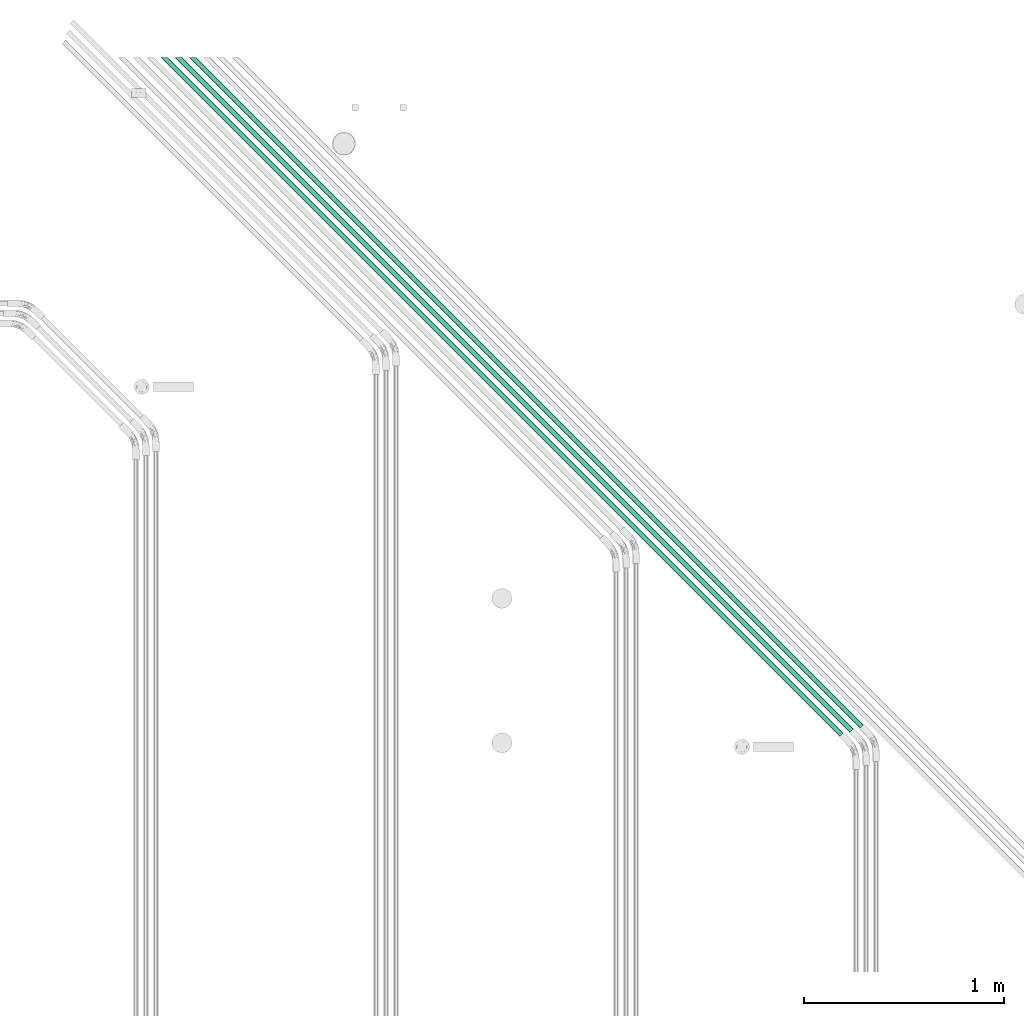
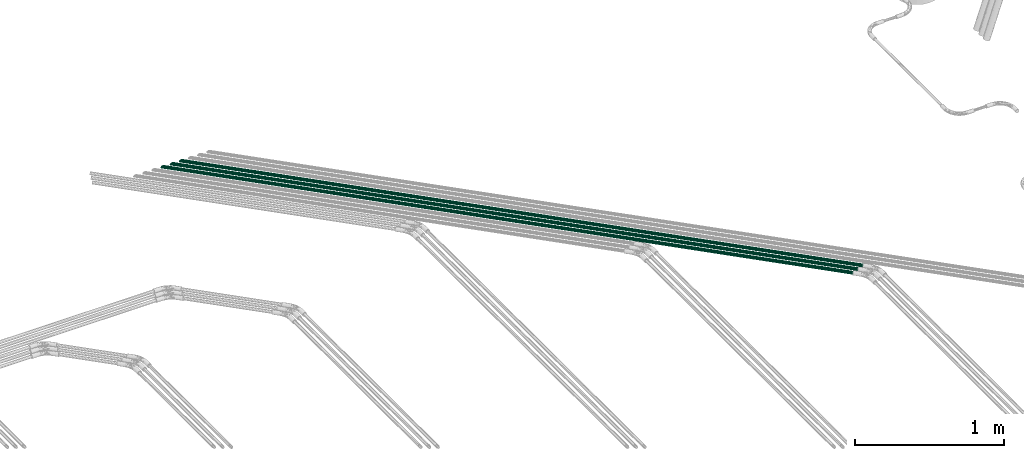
# One storey, part 45 of 51: 3 flow segments.
"""IFC2X3 building model written with IfcOpenShell, lengths in millimetres."""

from ifc_helpers import new_model, entity, si_unit, converted_unit, derived_unit, direction, frame, place, context, subcontext, project, spatial, faceted_brep, type_object, element, save


model = new_model("IFC2X3")

# Units and contexts
model_context = context("Model", 3, precision=0.01, world=frame((0.0, 4.29681676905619e-09, 0.0)), true_north=direction((4.01073788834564e-13, 1.0)))
plan_context = context("Plan", 3, precision=0.01, world=frame((0.0, 4.29681676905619e-09, 0.0)), true_north=direction((4.01073788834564e-13, 1.0)))
body_context = subcontext(model_context, "Body", "Model", "MODEL_VIEW")
ifc_project = project(units=[converted_unit("PLANEANGLEUNIT", "DEGREE", entity("IfcPositiveLengthMeasure", 0.0174532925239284), si_unit("PLANEANGLEUNIT", "RADIAN"), dimensions=[0, 0, 0, 0, 0, 0, 0]), si_unit("AREAUNIT", "SQUARE_METRE"), si_unit("LENGTHUNIT", "METRE", prefix="MILLI"), si_unit("MASSUNIT", "GRAM", prefix="KILO"), si_unit("POWERUNIT", "WATT"), si_unit("PRESSUREUNIT", "PASCAL"), si_unit("FORCEUNIT", "NEWTON", prefix="KILO"), si_unit("ELECTRICVOLTAGEUNIT", "VOLT"), si_unit("ELECTRICCURRENTUNIT", "AMPERE"), si_unit("THERMODYNAMICTEMPERATUREUNIT", "DEGREE_CELSIUS"), si_unit("TIMEUNIT", "SECOND"), si_unit("VOLUMEUNIT", "CUBIC_METRE"), derived_unit("LINEARVELOCITYUNIT", [(si_unit("LENGTHUNIT", "METRE"), 1), (si_unit("TIMEUNIT", "SECOND"), -1)]), derived_unit("VOLUMETRICFLOWRATEUNIT", [(si_unit("VOLUMEUNIT", "CUBIC_METRE"), 1), (si_unit("TIMEUNIT", "SECOND"), -1)]), derived_unit("THERMALTRANSMITTANCEUNIT", [(si_unit("POWERUNIT", "WATT"), 1), (si_unit("THERMODYNAMICTEMPERATUREUNIT", "KELVIN"), -1), (si_unit("AREAUNIT", "SQUARE_METRE"), -1)]), derived_unit("SOUNDPRESSUREUNIT", [(si_unit("PRESSUREUNIT", "PASCAL"), 1)])], contexts=[model_context, plan_context])

# Site, building, storey
site_placement = place(None, frame((0.0, -4.29681676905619e-09, 0.0), z_axis=(0.0, 0.0, 1.0), x_axis=(1.0, 0.0, 0.0)))
site = spatial("IfcSite", under=ifc_project, at=site_placement, Name="ENGM", CompositionType="ELEMENT")
building_placement = place(site_placement, frame((0.0, 4.29681676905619e-09, 0.0), z_axis=(0.0, 0.0, 1.0), x_axis=(1.0, 0.0, 0.0)))
building = spatial("IfcBuilding", under=site, at=building_placement, Name="TI", CompositionType="ELEMENT")
storey_placement = place(building_placement, frame((0.0, 0.0, 210900.0), z_axis=(0.0, 0.0, 1.0), x_axis=(1.0, 0.0, 0.0)))
storey = spatial("IfcBuildingStorey", under=building, at=storey_placement, Name="Nivå F", CompositionType="ELEMENT", Elevation=210900.0)

# Flow segments
cable_carrier_segment_type = type_object("IfcCableCarrierSegmentType", Name="Trekkerør, korrugert", PredefinedType="CONDUITSEGMENT")
flow_segment_1_placement = place(storey_placement, frame((609952.53125, 696129.57135, -56.7999999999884), z_axis=(0.0, 0.0, 1.0), x_axis=(-0.707106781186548, 0.707106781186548, 0.0)))
element("IfcFlowSegment", 1, at=flow_segment_1_placement, inside=storey, type_object=cable_carrier_segment_type, Name="Trekkerør, korrugert", context=body_context, shape_type="Brep", body=[
    faceted_brep([(4742.35767556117, 10.5, 0.0), (4742.1981569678, 10.3404814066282, -1.82330586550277), (0.0, 10.3404814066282, -1.82330586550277), (0.0, 10.5, 0.0), (4741.72444807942, 9.86677251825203, -3.59121150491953), (0.0, 9.86677251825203, -3.59121150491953), (4740.95094230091, 9.0932667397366, -5.25), (0.0, 9.0932667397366, -5.25), (4739.90114221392, 8.04346665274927, -6.74926990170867), (0.0, 8.04346665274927, -6.74926990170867), (4738.60694546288, 6.74926990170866, -8.04346665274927), (0.0, 6.74926990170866, -8.04346665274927), (4737.10767556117, 5.25, -9.09326673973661), (0.0, 5.25, -9.09326673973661), (4735.44888706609, 3.59121150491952, -9.86677251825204), (0.0, 3.59121150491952, -9.86677251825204), (4733.68098142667, 1.82330586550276, -10.3404814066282), (0.0, 1.82330586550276, -10.3404814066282), (4731.85767556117, -1.92881870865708e-15, -10.5), (0.0, -1.92881870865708e-15, -10.5), (4730.03436969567, -1.82330586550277, -10.3404814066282), (0.0, -1.82330586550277, -10.3404814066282), (4728.26646405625, -3.59121150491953, -9.86677251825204), (0.0, -3.59121150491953, -9.86677251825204), (4726.60767556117, -5.25, -9.0932667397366), (0.0, -5.25, -9.0932667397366), (4725.10840565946, -6.74926990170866, -8.04346665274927), (0.0, -6.74926990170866, -8.04346665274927), (4723.81420890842, -8.04346665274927, -6.74926990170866), (0.0, -8.04346665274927, -6.74926990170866), (4722.76440882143, -9.09326673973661, -5.25), (0.0, -9.09326673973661, -5.25), (4721.99090304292, -9.86677251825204, -3.59121150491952), (0.0, -9.86677251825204, -3.59121150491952), (4721.51719415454, -10.3404814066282, -1.82330586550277), (0.0, -10.3404814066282, -1.82330586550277), (4721.35767556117, -10.5, 1.28587913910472e-15), (0.0, -10.5, 1.28587913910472e-15), (4721.51719415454, -10.3404814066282, 1.82330586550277), (0.0, -10.3404814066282, 1.82330586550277), (4721.99090304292, -9.86677251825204, 3.59121150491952), (0.0, -9.86677251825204, 3.59121150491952), (4722.76440882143, -9.09326673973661, 5.25), (0.0, -9.09326673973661, 5.25), (4723.81420890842, -8.04346665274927, 6.74926990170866), (0.0, -8.04346665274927, 6.74926990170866), (4725.10840565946, -6.74926990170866, 8.04346665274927), (0.0, -6.74926990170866, 8.04346665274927), (4726.60767556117, -5.25, 9.09326673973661), (0.0, -5.25, 9.09326673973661), (4728.26646405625, -3.59121150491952, 9.86677251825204), (0.0, -3.59121150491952, 9.86677251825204), (4730.03436969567, -1.82330586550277, 10.3404814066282), (0.0, -1.82330586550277, 10.3404814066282), (4731.85767556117, 6.4293956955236e-16, 10.5), (0.0, 6.4293956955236e-16, 10.5), (4733.68098142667, 1.82330586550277, 10.3404814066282), (0.0, 1.82330586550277, 10.3404814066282), (4735.44888706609, 3.59121150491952, 9.86677251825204), (0.0, 3.59121150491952, 9.86677251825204), (4737.10767556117, 5.25, 9.09326673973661), (0.0, 5.25, 9.09326673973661), (4738.60694546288, 6.74926990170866, 8.04346665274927), (0.0, 6.74926990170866, 8.04346665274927), (4739.90114221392, 8.04346665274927, 6.74926990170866), (0.0, 8.04346665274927, 6.74926990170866), (4740.95094230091, 9.09326673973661, 5.25), (0.0, 9.09326673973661, 5.25), (4741.72444807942, 9.86677251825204, 3.59121150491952), (0.0, 9.86677251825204, 3.59121150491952), (4742.1981569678, 10.3404814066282, 1.82330586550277), (0.0, 10.3404814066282, 1.82330586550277), (4744.16777247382, 12.3100969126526, -2.17060222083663), (4744.35767556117, 12.5, 0.0), (0.0, 12.5, 0.0), (0.0, 12.3100969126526, -2.17060222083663), (4744.16777247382, 12.3100969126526, 2.17060222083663), (0.0, 12.3100969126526, 2.17060222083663), (4743.60383332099, 11.7461577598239, 4.27525179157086), (0.0, 11.7461577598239, 4.27525179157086), (4742.68299310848, 10.8253175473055, 6.25), (0.0, 10.8253175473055, 6.25), (4741.43323110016, 9.57555553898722, 8.03484512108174), (0.0, 9.57555553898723, 8.03484512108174), (4739.89252068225, 8.03484512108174, 9.57555553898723), (0.0, 8.03484512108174, 9.57555553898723), (4738.10767556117, 6.25, 10.8253175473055), (0.0, 6.25, 10.8253175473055), (4736.13292735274, 4.27525179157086, 11.7461577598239), (0.0, 4.27525179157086, 11.7461577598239), (4734.02827778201, 2.17060222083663, 12.3100969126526), (0.0, 2.17060222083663, 12.3100969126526), (4731.85767556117, 7.65404249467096e-16, 12.5), (0.0, 7.65404249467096e-16, 12.5), (4729.68707334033, -2.17060222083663, 12.3100969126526), (0.0, -2.17060222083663, 12.3100969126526), (4727.5824237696, -4.27525179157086, 11.7461577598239), (0.0, -4.27525179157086, 11.7461577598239), (4725.60767556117, -6.25, 10.8253175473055), (0.0, -6.25, 10.8253175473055), (4723.82283044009, -8.03484512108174, 9.57555553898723), (0.0, -8.03484512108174, 9.57555553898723), (4722.28212002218, -9.57555553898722, 8.03484512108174), (0.0, -9.57555553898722, 8.03484512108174), (4721.03235801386, -10.8253175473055, 6.25), (0.0, -10.8253175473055, 6.25), (4720.11151780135, -11.7461577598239, 4.27525179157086), (0.0, -11.7461577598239, 4.27525179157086), (4719.54757864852, -12.3100969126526, 2.17060222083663), (0.0, -12.3100969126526, 2.17060222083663), (4719.35767556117, -12.5, 1.53080849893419e-15), (0.0, -12.5, 1.53080849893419e-15), (4719.54757864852, -12.3100969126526, -2.17060222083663), (0.0, -12.3100969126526, -2.17060222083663), (4720.11151780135, -11.7461577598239, -4.27525179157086), (0.0, -11.7461577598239, -4.27525179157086), (4721.03235801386, -10.8253175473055, -6.25), (0.0, -10.8253175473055, -6.25), (4722.28212002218, -9.57555553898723, -8.03484512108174), (0.0, -9.57555553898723, -8.03484512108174), (4723.82283044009, -8.03484512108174, -9.57555553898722), (0.0, -8.03484512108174, -9.57555553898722), (4725.60767556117, -6.25000000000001, -10.8253175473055), (0.0, -6.25000000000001, -10.8253175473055), (4727.5824237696, -4.27525179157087, -11.7461577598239), (0.0, -4.27525179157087, -11.7461577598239), (4729.68707334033, -2.17060222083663, -12.3100969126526), (0.0, -2.17060222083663, -12.3100969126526), (4731.85767556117, -2.29621274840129e-15, -12.5), (0.0, -2.29621274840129e-15, -12.5), (4734.02827778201, 2.17060222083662, -12.3100969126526), (0.0, 2.17060222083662, -12.3100969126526), (4736.13292735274, 4.27525179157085, -11.7461577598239), (0.0, 4.27525179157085, -11.7461577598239), (4738.10767556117, 6.25, -10.8253175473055), (0.0, 6.25, -10.8253175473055), (4739.89252068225, 8.03484512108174, -9.57555553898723), (0.0, 8.03484512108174, -9.57555553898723), (4741.43323110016, 9.57555553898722, -8.03484512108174), (0.0, 9.57555553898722, -8.03484512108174), (4742.68299310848, 10.8253175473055, -6.25000000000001), (0.0, 10.8253175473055, -6.25000000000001), (4743.60383332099, 11.7461577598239, -4.27525179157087), (0.0, 11.7461577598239, -4.27525179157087)], [[[0, 1, 2, 3]], [[1, 4, 5, 2]], [[4, 6, 7, 5]], [[6, 8, 9, 7]], [[8, 10, 11, 9]], [[10, 12, 13, 11]], [[12, 14, 15, 13]], [[14, 16, 17, 15]], [[16, 18, 19, 17]], [[18, 20, 21, 19]], [[20, 22, 23, 21]], [[22, 24, 25, 23]], [[24, 26, 27, 25]], [[26, 28, 29, 27]], [[28, 30, 31, 29]], [[30, 32, 33, 31]], [[32, 34, 35, 33]], [[34, 36, 37, 35]], [[36, 38, 39, 37]], [[38, 40, 41, 39]], [[40, 42, 43, 41]], [[42, 44, 45, 43]], [[44, 46, 47, 45]], [[46, 48, 49, 47]], [[48, 50, 51, 49]], [[50, 52, 53, 51]], [[52, 54, 55, 53]], [[54, 56, 57, 55]], [[56, 58, 59, 57]], [[58, 60, 61, 59]], [[60, 62, 63, 61]], [[62, 64, 65, 63]], [[64, 66, 67, 65]], [[66, 68, 69, 67]], [[68, 70, 71, 69]], [[70, 0, 3, 71]], [[72, 73, 74, 75]], [[73, 76, 77, 74]], [[76, 78, 79, 77]], [[78, 80, 81, 79]], [[80, 82, 83, 81]], [[82, 84, 85, 83]], [[84, 86, 87, 85]], [[86, 88, 89, 87]], [[88, 90, 91, 89]], [[90, 92, 93, 91]], [[92, 94, 95, 93]], [[94, 96, 97, 95]], [[96, 98, 99, 97]], [[98, 100, 101, 99]], [[100, 102, 103, 101]], [[102, 104, 105, 103]], [[104, 106, 107, 105]], [[106, 108, 109, 107]], [[108, 110, 111, 109]], [[110, 112, 113, 111]], [[112, 114, 115, 113]], [[114, 116, 117, 115]], [[116, 118, 119, 117]], [[118, 120, 121, 119]], [[120, 122, 123, 121]], [[122, 124, 125, 123]], [[124, 126, 127, 125]], [[126, 128, 129, 127]], [[128, 130, 131, 129]], [[130, 132, 133, 131]], [[132, 134, 135, 133]], [[134, 136, 137, 135]], [[136, 138, 139, 137]], [[138, 140, 141, 139]], [[140, 142, 143, 141]], [[142, 72, 75, 143]], [[75, 74, 77, 79, 81, 83, 85, 87, 89, 91, 93, 95, 97, 99, 101, 103, 105, 107, 109, 111, 113, 115, 117, 119, 121, 123, 125, 127, 129, 131, 133, 135, 137, 139, 141, 143], [3, 2, 5, 7, 9, 11, 13, 15, 17, 19, 21, 23, 25, 27, 29, 31, 33, 35, 37, 39, 41, 43, 45, 47, 49, 51, 53, 55, 57, 59, 61, 63, 65, 67, 69, 71]], [[142, 140, 138, 136, 134, 132, 130, 128, 126, 124, 122, 120, 118, 116, 114, 112, 110, 108, 106, 104, 102, 100, 98, 96, 94, 92, 90, 88, 86, 84, 82, 80, 78, 76, 73, 72], [70, 68, 66, 64, 62, 60, 58, 56, 54, 52, 50, 48, 46, 44, 42, 40, 38, 36, 34, 32, 30, 28, 26, 24, 22, 20, 18, 16, 14, 12, 10, 8, 6, 4, 1, 0]]], orient=[[False], [False], [False], [False], [False], [False], [False], [False], [False], [False], [False], [False], [False], [False], [False], [False], [False], [False], [False], [False], [False], [False], [False], [False], [False], [False], [False], [False], [False], [False], [False], [False], [False], [False], [False], [False], [False], [False], [False], [False], [False], [False], [False], [False], [False], [False], [False], [False], [False], [False], [False], [False], [False], [False], [False], [False], [False], [False], [False], [False], [False], [False], [False], [False], [False], [False], [False], [False], [False], [False], [False], [False], [False, False], [False, False]]),
])
flow_segment_2_placement = place(storey_placement, frame((609902.53125, 696108.86067, -56.7999999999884), z_axis=(0.0, 0.0, 1.0), x_axis=(-0.707106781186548, 0.707106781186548, 0.0)))
element("IfcFlowSegment", 2, at=flow_segment_2_placement, inside=storey, type_object=cable_carrier_segment_type, Name="Trekkerør, korrugert", context=body_context, shape_type="Brep", body=[
    faceted_brep([(4771.64700010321, 10.5, 0.0), (4771.48748150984, 10.3404814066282, -1.82330586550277), (0.0, 10.3404814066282, -1.82330586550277), (0.0, 10.5, 0.0), (4771.01377262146, 9.86677251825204, -3.59121150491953), (0.0, 9.86677251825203, -3.59121150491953), (4770.24026684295, 9.0932667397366, -5.25), (0.0, 9.0932667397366, -5.25), (4769.19046675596, 8.04346665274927, -6.74926990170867), (0.0, 8.04346665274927, -6.74926990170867), (4767.89627000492, 6.74926990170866, -8.04346665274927), (0.0, 6.74926990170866, -8.04346665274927), (4766.39700010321, 5.25, -9.09326673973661), (0.0, 5.25, -9.09326673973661), (4764.73821160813, 3.59121150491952, -9.86677251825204), (0.0, 3.59121150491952, -9.86677251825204), (4762.97030596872, 1.82330586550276, -10.3404814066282), (0.0, 1.82330586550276, -10.3404814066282), (4761.14700010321, -1.92881870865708e-15, -10.5), (0.0, -1.92881870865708e-15, -10.5), (4759.32369423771, -1.82330586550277, -10.3404814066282), (0.0, -1.82330586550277, -10.3404814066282), (4757.55578859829, -3.59121150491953, -9.86677251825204), (0.0, -3.59121150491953, -9.86677251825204), (4755.89700010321, -5.25, -9.09326673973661), (0.0, -5.25, -9.0932667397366), (4754.3977302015, -6.74926990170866, -8.04346665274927), (0.0, -6.74926990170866, -8.04346665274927), (4753.10353345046, -8.04346665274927, -6.74926990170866), (0.0, -8.04346665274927, -6.74926990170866), (4752.05373336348, -9.09326673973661, -5.25), (0.0, -9.09326673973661, -5.25), (4751.28022758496, -9.86677251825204, -3.59121150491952), (0.0, -9.86677251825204, -3.59121150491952), (4750.80651869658, -10.3404814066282, -1.82330586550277), (0.0, -10.3404814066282, -1.82330586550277), (4750.64700010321, -10.5, 1.28587913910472e-15), (0.0, -10.5, 1.28587913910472e-15), (4750.80651869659, -10.3404814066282, 1.82330586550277), (0.0, -10.3404814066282, 1.82330586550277), (4751.28022758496, -9.86677251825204, 3.59121150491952), (0.0, -9.86677251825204, 3.59121150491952), (4752.05373336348, -9.09326673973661, 5.25), (0.0, -9.09326673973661, 5.25), (4753.10353345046, -8.04346665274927, 6.74926990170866), (0.0, -8.04346665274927, 6.74926990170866), (4754.3977302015, -6.74926990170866, 8.04346665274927), (0.0, -6.74926990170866, 8.04346665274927), (4755.89700010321, -5.25, 9.09326673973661), (0.0, -5.25, 9.09326673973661), (4757.55578859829, -3.59121150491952, 9.86677251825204), (0.0, -3.59121150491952, 9.86677251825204), (4759.32369423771, -1.82330586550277, 10.3404814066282), (0.0, -1.82330586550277, 10.3404814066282), (4761.14700010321, 6.42939569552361e-16, 10.5), (0.0, 6.4293956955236e-16, 10.5), (4762.97030596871, 1.82330586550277, 10.3404814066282), (0.0, 1.82330586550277, 10.3404814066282), (4764.73821160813, 3.59121150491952, 9.86677251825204), (0.0, 3.59121150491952, 9.86677251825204), (4766.39700010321, 5.25, 9.09326673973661), (0.0, 5.25, 9.09326673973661), (4767.89627000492, 6.74926990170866, 8.04346665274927), (0.0, 6.74926990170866, 8.04346665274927), (4769.19046675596, 8.04346665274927, 6.74926990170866), (0.0, 8.04346665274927, 6.74926990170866), (4770.24026684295, 9.09326673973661, 5.25), (0.0, 9.09326673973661, 5.25), (4771.01377262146, 9.86677251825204, 3.59121150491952), (0.0, 9.86677251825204, 3.59121150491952), (4771.48748150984, 10.3404814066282, 1.82330586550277), (0.0, 10.3404814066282, 1.82330586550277), (4773.45709701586, 12.3100969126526, -2.17060222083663), (4773.64700010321, 12.5, 0.0), (0.0, 12.5, 0.0), (0.0, 12.3100969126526, -2.17060222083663), (4773.45709701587, 12.3100969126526, 2.17060222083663), (0.0, 12.3100969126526, 2.17060222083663), (4772.89315786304, 11.7461577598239, 4.27525179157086), (0.0, 11.7461577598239, 4.27525179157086), (4771.97231765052, 10.8253175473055, 6.25), (0.0, 10.8253175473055, 6.25), (4770.7225556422, 9.57555553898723, 8.03484512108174), (0.0, 9.57555553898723, 8.03484512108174), (4769.18184522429, 8.03484512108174, 9.57555553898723), (0.0, 8.03484512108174, 9.57555553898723), (4767.39700010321, 6.25, 10.8253175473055), (0.0, 6.25, 10.8253175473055), (4765.42225189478, 4.27525179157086, 11.7461577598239), (0.0, 4.27525179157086, 11.7461577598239), (4763.31760232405, 2.17060222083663, 12.3100969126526), (0.0, 2.17060222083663, 12.3100969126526), (4761.14700010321, 7.65404249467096e-16, 12.5), (0.0, 7.65404249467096e-16, 12.5), (4758.97639788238, -2.17060222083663, 12.3100969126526), (0.0, -2.17060222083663, 12.3100969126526), (4756.87174831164, -4.27525179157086, 11.7461577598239), (0.0, -4.27525179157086, 11.7461577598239), (4754.89700010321, -6.25, 10.8253175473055), (0.0, -6.25, 10.8253175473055), (4753.11215498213, -8.03484512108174, 9.57555553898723), (0.0, -8.03484512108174, 9.57555553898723), (4751.57144456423, -9.57555553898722, 8.03484512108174), (0.0, -9.57555553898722, 8.03484512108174), (4750.32168255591, -10.8253175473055, 6.25), (0.0, -10.8253175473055, 6.25), (4749.40084234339, -11.7461577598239, 4.27525179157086), (0.0, -11.7461577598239, 4.27525179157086), (4748.83690319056, -12.3100969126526, 2.17060222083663), (0.0, -12.3100969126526, 2.17060222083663), (4748.64700010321, -12.5, 1.53080849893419e-15), (0.0, -12.5, 1.53080849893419e-15), (4748.83690319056, -12.3100969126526, -2.17060222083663), (0.0, -12.3100969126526, -2.17060222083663), (4749.40084234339, -11.7461577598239, -4.27525179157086), (0.0, -11.7461577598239, -4.27525179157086), (4750.32168255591, -10.8253175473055, -6.25), (0.0, -10.8253175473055, -6.25), (4751.57144456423, -9.57555553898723, -8.03484512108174), (0.0, -9.57555553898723, -8.03484512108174), (4753.11215498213, -8.03484512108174, -9.57555553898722), (0.0, -8.03484512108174, -9.57555553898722), (4754.89700010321, -6.25000000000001, -10.8253175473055), (0.0, -6.25000000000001, -10.8253175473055), (4756.87174831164, -4.27525179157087, -11.7461577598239), (0.0, -4.27525179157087, -11.7461577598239), (4758.97639788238, -2.17060222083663, -12.3100969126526), (0.0, -2.17060222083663, -12.3100969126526), (4761.14700010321, -2.29621274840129e-15, -12.5), (0.0, -2.29621274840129e-15, -12.5), (4763.31760232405, 2.17060222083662, -12.3100969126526), (0.0, 2.17060222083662, -12.3100969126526), (4765.42225189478, 4.27525179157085, -11.7461577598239), (0.0, 4.27525179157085, -11.7461577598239), (4767.39700010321, 6.25, -10.8253175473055), (0.0, 6.25, -10.8253175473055), (4769.18184522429, 8.03484512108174, -9.57555553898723), (0.0, 8.03484512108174, -9.57555553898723), (4770.7225556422, 9.57555553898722, -8.03484512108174), (0.0, 9.57555553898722, -8.03484512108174), (4771.97231765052, 10.8253175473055, -6.25000000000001), (0.0, 10.8253175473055, -6.25000000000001), (4772.89315786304, 11.7461577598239, -4.27525179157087), (0.0, 11.7461577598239, -4.27525179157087)], [[[0, 1, 2, 3]], [[1, 4, 5, 2]], [[4, 6, 7, 5]], [[6, 8, 9, 7]], [[8, 10, 11, 9]], [[10, 12, 13, 11]], [[12, 14, 15, 13]], [[14, 16, 17, 15]], [[16, 18, 19, 17]], [[18, 20, 21, 19]], [[20, 22, 23, 21]], [[22, 24, 25, 23]], [[24, 26, 27, 25]], [[26, 28, 29, 27]], [[28, 30, 31, 29]], [[30, 32, 33, 31]], [[32, 34, 35, 33]], [[34, 36, 37, 35]], [[36, 38, 39, 37]], [[38, 40, 41, 39]], [[40, 42, 43, 41]], [[42, 44, 45, 43]], [[44, 46, 47, 45]], [[46, 48, 49, 47]], [[48, 50, 51, 49]], [[50, 52, 53, 51]], [[52, 54, 55, 53]], [[54, 56, 57, 55]], [[56, 58, 59, 57]], [[58, 60, 61, 59]], [[60, 62, 63, 61]], [[62, 64, 65, 63]], [[64, 66, 67, 65]], [[66, 68, 69, 67]], [[68, 70, 71, 69]], [[70, 0, 3, 71]], [[72, 73, 74, 75]], [[73, 76, 77, 74]], [[76, 78, 79, 77]], [[78, 80, 81, 79]], [[80, 82, 83, 81]], [[82, 84, 85, 83]], [[84, 86, 87, 85]], [[86, 88, 89, 87]], [[88, 90, 91, 89]], [[90, 92, 93, 91]], [[92, 94, 95, 93]], [[94, 96, 97, 95]], [[96, 98, 99, 97]], [[98, 100, 101, 99]], [[100, 102, 103, 101]], [[102, 104, 105, 103]], [[104, 106, 107, 105]], [[106, 108, 109, 107]], [[108, 110, 111, 109]], [[110, 112, 113, 111]], [[112, 114, 115, 113]], [[114, 116, 117, 115]], [[116, 118, 119, 117]], [[118, 120, 121, 119]], [[120, 122, 123, 121]], [[122, 124, 125, 123]], [[124, 126, 127, 125]], [[126, 128, 129, 127]], [[128, 130, 131, 129]], [[130, 132, 133, 131]], [[132, 134, 135, 133]], [[134, 136, 137, 135]], [[136, 138, 139, 137]], [[138, 140, 141, 139]], [[140, 142, 143, 141]], [[142, 72, 75, 143]], [[75, 74, 77, 79, 81, 83, 85, 87, 89, 91, 93, 95, 97, 99, 101, 103, 105, 107, 109, 111, 113, 115, 117, 119, 121, 123, 125, 127, 129, 131, 133, 135, 137, 139, 141, 143], [3, 2, 5, 7, 9, 11, 13, 15, 17, 19, 21, 23, 25, 27, 29, 31, 33, 35, 37, 39, 41, 43, 45, 47, 49, 51, 53, 55, 57, 59, 61, 63, 65, 67, 69, 71]], [[142, 140, 138, 136, 134, 132, 130, 128, 126, 124, 122, 120, 118, 116, 114, 112, 110, 108, 106, 104, 102, 100, 98, 96, 94, 92, 90, 88, 86, 84, 82, 80, 78, 76, 73, 72], [70, 68, 66, 64, 62, 60, 58, 56, 54, 52, 50, 48, 46, 44, 42, 40, 38, 36, 34, 32, 30, 28, 26, 24, 22, 20, 18, 16, 14, 12, 10, 8, 6, 4, 1, 0]]], orient=[[False], [False], [False], [False], [False], [False], [False], [False], [False], [False], [False], [False], [False], [False], [False], [False], [False], [False], [False], [False], [False], [False], [False], [False], [False], [False], [False], [False], [False], [False], [False], [False], [False], [False], [False], [False], [False], [False], [False], [False], [False], [False], [False], [False], [False], [False], [False], [False], [False], [False], [False], [False], [False], [False], [False], [False], [False], [False], [False], [False], [False], [False], [False], [False], [False], [False], [False], [False], [False], [False], [False], [False], [False, False], [False, False]]),
])
flow_segment_3_placement = place(storey_placement, frame((609852.53125, 696088.14999, -56.7999999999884), z_axis=(0.0, 0.0, 1.0), x_axis=(-0.707106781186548, 0.707106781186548, 0.0)))
element("IfcFlowSegment", 3, at=flow_segment_3_placement, inside=storey, type_object=cable_carrier_segment_type, Name="Trekkerør, korrugert", context=body_context, shape_type="Brep", body=[
    faceted_brep([(4800.93632464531, 10.5, 0.0), (4800.77680605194, 10.3404814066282, -1.82330586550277), (0.0, 10.3404814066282, -1.82330586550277), (0.0, 10.5, 0.0), (4800.30309716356, 9.86677251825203, -3.59121150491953), (0.0, 9.86677251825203, -3.59121150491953), (4799.52959138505, 9.0932667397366, -5.25), (0.0, 9.0932667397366, -5.25), (4798.47979129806, 8.04346665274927, -6.74926990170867), (0.0, 8.04346665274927, -6.74926990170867), (4797.18559454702, 6.74926990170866, -8.04346665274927), (0.0, 6.74926990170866, -8.04346665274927), (4795.68632464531, 5.25, -9.09326673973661), (0.0, 5.25, -9.09326673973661), (4794.02753615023, 3.59121150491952, -9.86677251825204), (0.0, 3.59121150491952, -9.86677251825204), (4792.25963051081, 1.82330586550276, -10.3404814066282), (0.0, 1.82330586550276, -10.3404814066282), (4790.43632464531, -1.92881870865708e-15, -10.5), (0.0, -1.92881870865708e-15, -10.5), (4788.61301877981, -1.82330586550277, -10.3404814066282), (0.0, -1.82330586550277, -10.3404814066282), (4786.84511314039, -3.59121150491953, -9.86677251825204), (0.0, -3.59121150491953, -9.86677251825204), (4785.18632464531, -5.25, -9.09326673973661), (0.0, -5.25, -9.0932667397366), (4783.6870547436, -6.74926990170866, -8.04346665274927), (0.0, -6.74926990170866, -8.04346665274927), (4782.39285799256, -8.04346665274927, -6.74926990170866), (0.0, -8.04346665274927, -6.74926990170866), (4781.34305790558, -9.09326673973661, -5.25), (0.0, -9.09326673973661, -5.25), (4780.56955212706, -9.86677251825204, -3.59121150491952), (0.0, -9.86677251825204, -3.59121150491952), (4780.09584323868, -10.3404814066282, -1.82330586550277), (0.0, -10.3404814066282, -1.82330586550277), (4779.93632464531, -10.5, 1.28587913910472e-15), (0.0, -10.5, 1.28587913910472e-15), (4780.09584323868, -10.3404814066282, 1.82330586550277), (0.0, -10.3404814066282, 1.82330586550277), (4780.56955212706, -9.86677251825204, 3.59121150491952), (0.0, -9.86677251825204, 3.59121150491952), (4781.34305790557, -9.09326673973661, 5.25), (0.0, -9.09326673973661, 5.25), (4782.39285799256, -8.04346665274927, 6.74926990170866), (0.0, -8.04346665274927, 6.74926990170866), (4783.6870547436, -6.74926990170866, 8.04346665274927), (0.0, -6.74926990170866, 8.04346665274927), (4785.18632464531, -5.25, 9.09326673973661), (0.0, -5.25, 9.09326673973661), (4786.84511314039, -3.59121150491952, 9.86677251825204), (0.0, -3.59121150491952, 9.86677251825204), (4788.61301877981, -1.82330586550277, 10.3404814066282), (0.0, -1.82330586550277, 10.3404814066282), (4790.43632464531, 6.42939569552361e-16, 10.5), (0.0, 6.4293956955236e-16, 10.5), (4792.25963051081, 1.82330586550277, 10.3404814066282), (0.0, 1.82330586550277, 10.3404814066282), (4794.02753615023, 3.59121150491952, 9.86677251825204), (0.0, 3.59121150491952, 9.86677251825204), (4795.68632464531, 5.25, 9.09326673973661), (0.0, 5.25, 9.09326673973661), (4797.18559454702, 6.74926990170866, 8.04346665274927), (0.0, 6.74926990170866, 8.04346665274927), (4798.47979129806, 8.04346665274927, 6.74926990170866), (0.0, 8.04346665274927, 6.74926990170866), (4799.52959138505, 9.09326673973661, 5.25), (0.0, 9.09326673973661, 5.25), (4800.30309716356, 9.86677251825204, 3.59121150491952), (0.0, 9.86677251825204, 3.59121150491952), (4800.77680605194, 10.3404814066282, 1.82330586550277), (0.0, 10.3404814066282, 1.82330586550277), (4802.74642155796, 12.3100969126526, -2.17060222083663), (4802.93632464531, 12.5, 0.0), (0.0, 12.5, 0.0), (0.0, 12.3100969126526, -2.17060222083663), (4802.74642155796, 12.3100969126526, 2.17060222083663), (0.0, 12.3100969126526, 2.17060222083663), (4802.18248240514, 11.7461577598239, 4.27525179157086), (0.0, 11.7461577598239, 4.27525179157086), (4801.26164219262, 10.8253175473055, 6.25), (0.0, 10.8253175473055, 6.25), (4800.0118801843, 9.57555553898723, 8.03484512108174), (0.0, 9.57555553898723, 8.03484512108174), (4798.47116976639, 8.03484512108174, 9.57555553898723), (0.0, 8.03484512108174, 9.57555553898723), (4796.68632464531, 6.25, 10.8253175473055), (0.0, 6.25, 10.8253175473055), (4794.71157643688, 4.27525179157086, 11.7461577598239), (0.0, 4.27525179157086, 11.7461577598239), (4792.60692686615, 2.17060222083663, 12.3100969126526), (0.0, 2.17060222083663, 12.3100969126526), (4790.43632464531, 7.65404249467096e-16, 12.5), (0.0, 7.65404249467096e-16, 12.5), (4788.26572242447, -2.17060222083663, 12.3100969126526), (0.0, -2.17060222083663, 12.3100969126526), (4786.16107285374, -4.27525179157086, 11.7461577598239), (0.0, -4.27525179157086, 11.7461577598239), (4784.18632464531, -6.25, 10.8253175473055), (0.0, -6.25, 10.8253175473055), (4782.40147952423, -8.03484512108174, 9.57555553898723), (0.0, -8.03484512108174, 9.57555553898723), (4780.86076910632, -9.57555553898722, 8.03484512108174), (0.0, -9.57555553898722, 8.03484512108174), (4779.61100709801, -10.8253175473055, 6.25), (0.0, -10.8253175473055, 6.25), (4778.69016688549, -11.7461577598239, 4.27525179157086), (0.0, -11.7461577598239, 4.27525179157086), (4778.12622773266, -12.3100969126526, 2.17060222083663), (0.0, -12.3100969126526, 2.17060222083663), (4777.93632464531, -12.5, 1.53080849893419e-15), (0.0, -12.5, 1.53080849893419e-15), (4778.12622773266, -12.3100969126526, -2.17060222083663), (0.0, -12.3100969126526, -2.17060222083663), (4778.69016688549, -11.7461577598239, -4.27525179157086), (0.0, -11.7461577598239, -4.27525179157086), (4779.61100709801, -10.8253175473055, -6.25), (0.0, -10.8253175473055, -6.25), (4780.86076910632, -9.57555553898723, -8.03484512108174), (0.0, -9.57555553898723, -8.03484512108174), (4782.40147952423, -8.03484512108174, -9.57555553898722), (0.0, -8.03484512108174, -9.57555553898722), (4784.18632464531, -6.25000000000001, -10.8253175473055), (0.0, -6.25000000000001, -10.8253175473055), (4786.16107285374, -4.27525179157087, -11.7461577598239), (0.0, -4.27525179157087, -11.7461577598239), (4788.26572242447, -2.17060222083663, -12.3100969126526), (0.0, -2.17060222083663, -12.3100969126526), (4790.43632464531, -2.29621274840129e-15, -12.5), (0.0, -2.29621274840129e-15, -12.5), (4792.60692686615, 2.17060222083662, -12.3100969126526), (0.0, 2.17060222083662, -12.3100969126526), (4794.71157643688, 4.27525179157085, -11.7461577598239), (0.0, 4.27525179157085, -11.7461577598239), (4796.68632464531, 6.25, -10.8253175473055), (0.0, 6.25, -10.8253175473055), (4798.47116976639, 8.03484512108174, -9.57555553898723), (0.0, 8.03484512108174, -9.57555553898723), (4800.0118801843, 9.57555553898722, -8.03484512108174), (0.0, 9.57555553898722, -8.03484512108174), (4801.26164219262, 10.8253175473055, -6.25000000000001), (0.0, 10.8253175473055, -6.25000000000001), (4802.18248240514, 11.7461577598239, -4.27525179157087), (0.0, 11.7461577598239, -4.27525179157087)], [[[0, 1, 2, 3]], [[1, 4, 5, 2]], [[4, 6, 7, 5]], [[6, 8, 9, 7]], [[8, 10, 11, 9]], [[10, 12, 13, 11]], [[12, 14, 15, 13]], [[14, 16, 17, 15]], [[16, 18, 19, 17]], [[18, 20, 21, 19]], [[20, 22, 23, 21]], [[22, 24, 25, 23]], [[24, 26, 27, 25]], [[26, 28, 29, 27]], [[28, 30, 31, 29]], [[30, 32, 33, 31]], [[32, 34, 35, 33]], [[34, 36, 37, 35]], [[36, 38, 39, 37]], [[38, 40, 41, 39]], [[40, 42, 43, 41]], [[42, 44, 45, 43]], [[44, 46, 47, 45]], [[46, 48, 49, 47]], [[48, 50, 51, 49]], [[50, 52, 53, 51]], [[52, 54, 55, 53]], [[54, 56, 57, 55]], [[56, 58, 59, 57]], [[58, 60, 61, 59]], [[60, 62, 63, 61]], [[62, 64, 65, 63]], [[64, 66, 67, 65]], [[66, 68, 69, 67]], [[68, 70, 71, 69]], [[70, 0, 3, 71]], [[72, 73, 74, 75]], [[73, 76, 77, 74]], [[76, 78, 79, 77]], [[78, 80, 81, 79]], [[80, 82, 83, 81]], [[82, 84, 85, 83]], [[84, 86, 87, 85]], [[86, 88, 89, 87]], [[88, 90, 91, 89]], [[90, 92, 93, 91]], [[92, 94, 95, 93]], [[94, 96, 97, 95]], [[96, 98, 99, 97]], [[98, 100, 101, 99]], [[100, 102, 103, 101]], [[102, 104, 105, 103]], [[104, 106, 107, 105]], [[106, 108, 109, 107]], [[108, 110, 111, 109]], [[110, 112, 113, 111]], [[112, 114, 115, 113]], [[114, 116, 117, 115]], [[116, 118, 119, 117]], [[118, 120, 121, 119]], [[120, 122, 123, 121]], [[122, 124, 125, 123]], [[124, 126, 127, 125]], [[126, 128, 129, 127]], [[128, 130, 131, 129]], [[130, 132, 133, 131]], [[132, 134, 135, 133]], [[134, 136, 137, 135]], [[136, 138, 139, 137]], [[138, 140, 141, 139]], [[140, 142, 143, 141]], [[142, 72, 75, 143]], [[75, 74, 77, 79, 81, 83, 85, 87, 89, 91, 93, 95, 97, 99, 101, 103, 105, 107, 109, 111, 113, 115, 117, 119, 121, 123, 125, 127, 129, 131, 133, 135, 137, 139, 141, 143], [3, 2, 5, 7, 9, 11, 13, 15, 17, 19, 21, 23, 25, 27, 29, 31, 33, 35, 37, 39, 41, 43, 45, 47, 49, 51, 53, 55, 57, 59, 61, 63, 65, 67, 69, 71]], [[142, 140, 138, 136, 134, 132, 130, 128, 126, 124, 122, 120, 118, 116, 114, 112, 110, 108, 106, 104, 102, 100, 98, 96, 94, 92, 90, 88, 86, 84, 82, 80, 78, 76, 73, 72], [70, 68, 66, 64, 62, 60, 58, 56, 54, 52, 50, 48, 46, 44, 42, 40, 38, 36, 34, 32, 30, 28, 26, 24, 22, 20, 18, 16, 14, 12, 10, 8, 6, 4, 1, 0]]], orient=[[False], [False], [False], [False], [False], [False], [False], [False], [False], [False], [False], [False], [False], [False], [False], [False], [False], [False], [False], [False], [False], [False], [False], [False], [False], [False], [False], [False], [False], [False], [False], [False], [False], [False], [False], [False], [False], [False], [False], [False], [False], [False], [False], [False], [False], [False], [False], [False], [False], [False], [False], [False], [False], [False], [False], [False], [False], [False], [False], [False], [False], [False], [False], [False], [False], [False], [False], [False], [False], [False], [False], [False], [False, False], [False, False]]),
])

save(model, "model.ifc")
